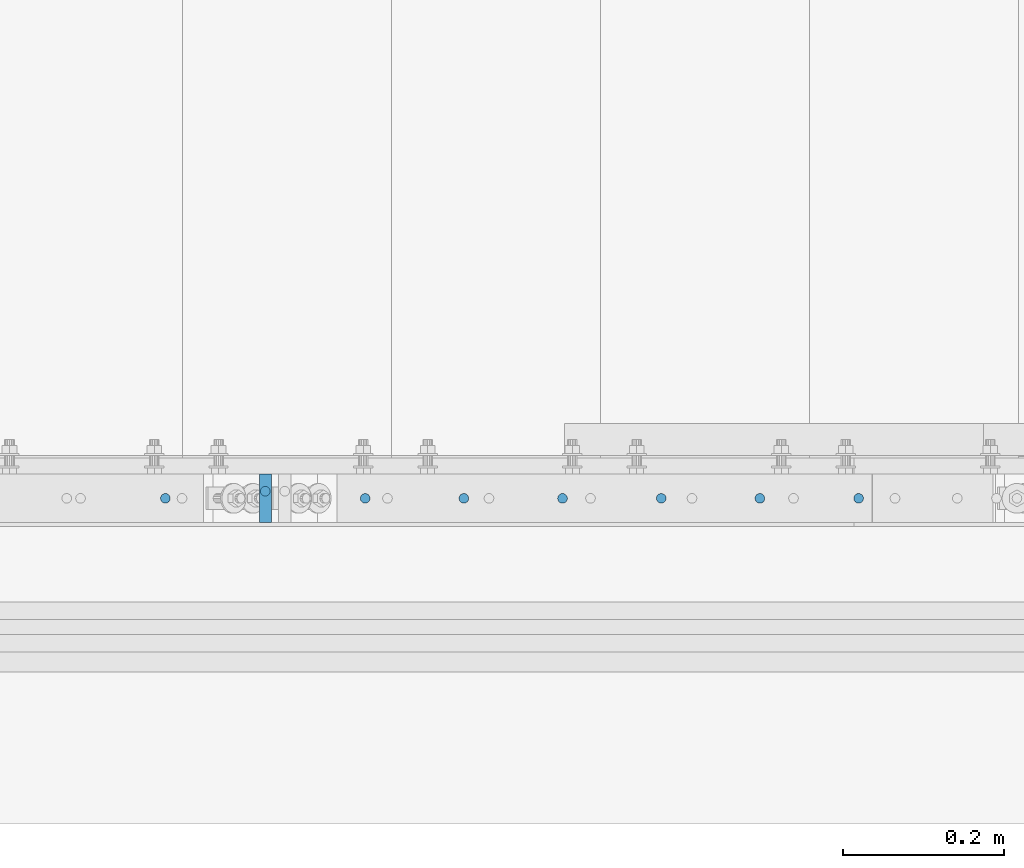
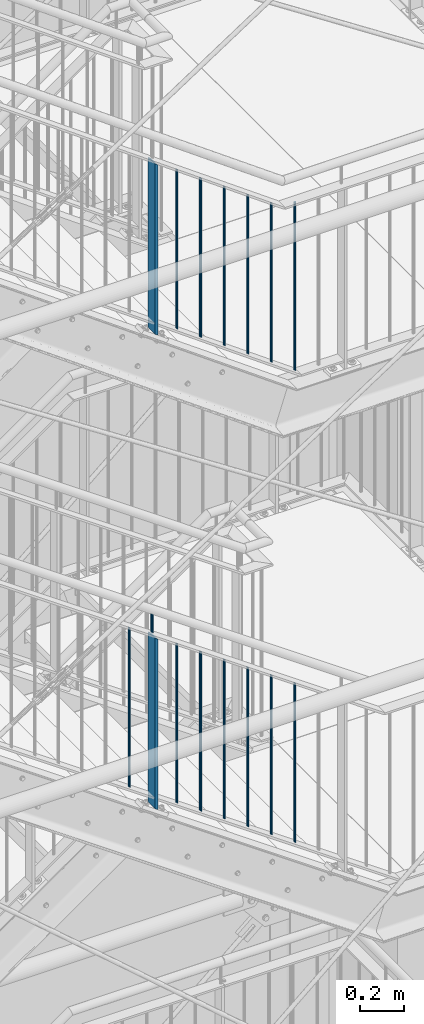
# One storey, part 38 of 825: 16 columns.
"""IFC2X3 building model written with IfcOpenShell, lengths in millimetres."""

from ifc_helpers import new_model, entity, si_unit, converted_unit, frame, origin, origin_with_axes, origin_2d, place, context, project, spatial, rectangle, circle, extrude, clip, halfspace, material, element, save


model = new_model("IFC2X3")

# Units and contexts
model_context = context("Model", 3, precision=1e-09, world=origin_with_axes())
ifc_project = project(units=[si_unit("LENGTHUNIT", "METRE", prefix="MILLI"), si_unit("AREAUNIT", "SQUARE_METRE"), si_unit("VOLUMEUNIT", "CUBIC_METRE"), converted_unit("PLANEANGLEUNIT", "DEGREE", entity("IfcPlaneAngleMeasure", 0.01745329), si_unit("PLANEANGLEUNIT", "RADIAN"), dimensions=[0, 0, 0, 0, 0, 0, 0])], contexts=[model_context])

# Site, building, storey
site_placement = place(None, origin_with_axes())
site = spatial("IfcSite", under=ifc_project, at=site_placement, Name="Cnopf'sche Kinderklinik", CompositionType="ELEMENT")
building_placement = place(site_placement, origin_with_axes())
building = spatial("IfcBuilding", under=site, at=building_placement, Name="Struktur 1", CompositionType="ELEMENT")
storey_placement = place(building_placement, origin_with_axes())
storey = spatial("IfcBuildingStorey", under=building, at=storey_placement, Name="Default Storey", CompositionType="ELEMENT", Elevation=0.0)

# Columns
ifc_material = material(Name="S235JR")
column_1_placement = place(None, frame((6379.791974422, 4526.736971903, 7556.035866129), z_axis=(0.0, 0.0, 1.0), x_axis=(-1.0, 0.0, 0.0)))
element("IfcColumn", 1, at=column_1_placement, inside=storey, material=ifc_material, Name="Railing_Post_Stair#10", ObjectType="Railing_Post_Stair#10", context=model_context, shape_type="Clipping", body=[
    clip(clip(extrude(rectangle(XDim=15.0, YDim=60.0, at=origin_2d()), origin(), (0.0, 0.0, -1.0), 1013.014378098), halfspace(frame((1173.311952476, 4526.736971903, -150.331487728), z_axis=(-0.57512827, 0.0, 0.818063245), x_axis=(0.0, -1.0, 0.0)), True)), halfspace(frame((732.268371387, 4526.736971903, 477.009511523), z_axis=(0.57512827, 0.0, -0.818063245), x_axis=(0.0, 1.0, 0.0)), True)),
])
column_2_placement = place(None, frame((7117.792093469, 4526.736971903, 7009.766681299), z_axis=(0.0, 0.0, 1.0), x_axis=(-1.0, 0.0, 0.0)))
element("IfcColumn", 2, at=column_2_placement, inside=storey, material=ifc_material, Name="Railing_Picket_Stair#63", ObjectType="Railing_Picket_Stair#63", context=model_context, shape_type="Clipping", body=[
    clip(clip(extrude(circle(Radius=6.0, at=origin_2d()), origin(), (0.0, 0.0, -1.0), 897.037988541), halfspace(frame((1470.268490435, 4526.736971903, 1023.278696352), z_axis=(0.57512827, 0.0, -0.818063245), x_axis=(0.0, 1.0, 0.0)), True)), halfspace(frame((1882.555658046, 4526.736971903, 436.840859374), z_axis=(-0.57512827, 0.0, 0.818063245), x_axis=(0.0, -1.0, 0.0)), True)),
])
column_3_placement = place(None, frame((6995.04206966, 4526.736971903, 7096.064420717), z_axis=(0.0, 0.0, 1.0), x_axis=(-1.0, 0.0, 0.0)))
element("IfcColumn", 3, at=column_3_placement, inside=storey, material=ifc_material, Name="Railing_Picket_Stair#64", ObjectType="Railing_Picket_Stair#64", context=model_context, shape_type="Clipping", body=[
    clip(clip(extrude(circle(Radius=6.0, at=origin_2d()), origin(), (0.0, 0.0, -1.0), 897.037988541), halfspace(frame((1347.518466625, 4526.736971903, 936.980956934), z_axis=(0.57512827, 0.0, -0.818063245), x_axis=(0.0, 1.0, 0.0)), True)), halfspace(frame((1759.805634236, 4526.736971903, 350.543119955), z_axis=(-0.57512827, 0.0, 0.818063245), x_axis=(0.0, -1.0, 0.0)), True)),
])
column_4_placement = place(None, frame((6872.29204585, 4526.736971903, 7182.362160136), z_axis=(0.0, 0.0, 1.0), x_axis=(-1.0, 0.0, 0.0)))
element("IfcColumn", 4, at=column_4_placement, inside=storey, material=ifc_material, Name="Railing_Picket_Stair#65", ObjectType="Railing_Picket_Stair#65", context=model_context, shape_type="Clipping", body=[
    clip(clip(extrude(circle(Radius=6.0, at=origin_2d()), origin(), (0.0, 0.0, -1.0), 897.037988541), halfspace(frame((1224.768442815, 4526.736971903, 850.683217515), z_axis=(0.57512827, 0.0, -0.818063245), x_axis=(0.0, 1.0, 0.0)), True)), halfspace(frame((1637.055610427, 4526.736971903, 264.245380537), z_axis=(-0.57512827, 0.0, 0.818063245), x_axis=(0.0, -1.0, 0.0)), True)),
])
column_5_placement = place(None, frame((6749.542022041, 4526.736971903, 7268.659899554), z_axis=(0.0, 0.0, 1.0), x_axis=(-1.0, 0.0, 0.0)))
element("IfcColumn", 5, at=column_5_placement, inside=storey, material=ifc_material, Name="Railing_Picket_Stair#66", ObjectType="Railing_Picket_Stair#66", context=model_context, shape_type="Clipping", body=[
    clip(clip(extrude(circle(Radius=6.0, at=origin_2d()), origin(), (0.0, 0.0, -1.0), 897.037988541), halfspace(frame((1102.018419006, 4526.736971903, 764.385478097), z_axis=(0.57512827, 0.0, -0.818063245), x_axis=(0.0, 1.0, 0.0)), True)), halfspace(frame((1514.305586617, 4526.736971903, 177.947641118), z_axis=(-0.57512827, 0.0, 0.818063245), x_axis=(0.0, -1.0, 0.0)), True)),
])
column_6_placement = place(None, frame((6626.791998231, 4526.736971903, 7354.957638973), z_axis=(0.0, 0.0, 1.0), x_axis=(-1.0, 0.0, 0.0)))
element("IfcColumn", 6, at=column_6_placement, inside=storey, material=ifc_material, Name="Railing_Picket_Stair#67", ObjectType="Railing_Picket_Stair#67", context=model_context, shape_type="Clipping", body=[
    clip(clip(extrude(circle(Radius=6.0, at=origin_2d()), origin(), (0.0, 0.0, -1.0), 897.037988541), halfspace(frame((979.268395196, 4526.736971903, 678.087738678), z_axis=(0.57512827, 0.0, -0.818063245), x_axis=(0.0, 1.0, 0.0)), True)), halfspace(frame((1391.555562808, 4526.736971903, 91.6499017), z_axis=(-0.57512827, 0.0, 0.818063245), x_axis=(0.0, -1.0, 0.0)), True)),
])
column_7_placement = place(None, frame((6504.041974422, 4526.736971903, 7441.255378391), z_axis=(0.0, 0.0, 1.0), x_axis=(-1.0, 0.0, 0.0)))
element("IfcColumn", 7, at=column_7_placement, inside=storey, material=ifc_material, Name="Railing_Picket_Stair#68", ObjectType="Railing_Picket_Stair#68", context=model_context, shape_type="Clipping", body=[
    clip(clip(extrude(circle(Radius=6.0, at=origin_2d()), origin(), (0.0, 0.0, -1.0), 897.037988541), halfspace(frame((856.518371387, 4526.736971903, 591.78999926), z_axis=(0.57512827, 0.0, -0.818063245), x_axis=(0.0, 1.0, 0.0)), True)), halfspace(frame((1268.805538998, 4526.736971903, 5.352162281), z_axis=(-0.57512827, 0.0, 0.818063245), x_axis=(0.0, -1.0, 0.0)), True)),
])
column_8_placement = place(None, frame((6255.541974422, 4526.736971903, 7615.959933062), z_axis=(0.0, 0.0, 1.0), x_axis=(-1.0, 0.0, 0.0)))
element("IfcColumn", 8, at=column_8_placement, inside=storey, material=ifc_material, Name="Railing_Picket_Stair#69", ObjectType="Railing_Picket_Stair#69", context=model_context, shape_type="Clipping", body=[
    clip(clip(extrude(circle(Radius=6.0, at=origin_2d()), origin(), (0.0, 0.0, -1.0), 897.037988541), halfspace(frame((608.018371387, 4526.736971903, 417.085444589), z_axis=(0.57512827, 0.0, -0.818063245), x_axis=(0.0, 1.0, 0.0)), True)), halfspace(frame((1020.305538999, 4526.736971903, -169.352392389), z_axis=(-0.57512827, 0.0, 0.818063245), x_axis=(0.0, -1.0, 0.0)), True)),
])
column_9_placement = place(None, frame((6379.791974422, 4535.536971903, 7640.831649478), z_axis=(0.0, 0.0, 1.0), x_axis=(0.0, 1.0, 0.0)))
element("IfcColumn", 9, at=column_9_placement, inside=storey, material=ifc_material, Name="Bar#10", ObjectType="Bar#10", context=model_context, shape_type="Clipping", body=[
    clip(clip(extrude(circle(Radius=6.0, at=origin_2d()), origin(), (0.0, 0.0, -1.0), 120.744805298), halfspace(frame((-4535.536971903, 679.467958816, 467.317107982), z_axis=(0.0, 0.57512827, -0.818063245), x_axis=(-1.0, 0.0, 0.0)), True)), halfspace(frame((-4535.536971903, 726.515938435, 400.395996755), z_axis=(0.0, -0.57512827, 0.818063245), x_axis=(1.0, 0.0, 0.0)), True)),
])
column_10_placement = place(None, frame((6379.791974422, 4526.736971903, 10165.124796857), z_axis=(0.0, 0.0, 1.0), x_axis=(-1.0, 0.0, 0.0)))
element("IfcColumn", 10, at=column_10_placement, inside=storey, material=ifc_material, Name="Railing_Post_Stair#10", ObjectType="Railing_Post_Stair#10", context=model_context, shape_type="Clipping", body=[
    clip(clip(extrude(rectangle(XDim=15.0, YDim=60.0, at=origin_2d()), origin(), (0.0, 0.0, -1.0), 1013.13824851), halfspace(frame((-619.094090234, 4526.736971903, -485.814281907), z_axis=(0.585945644, 0.0, -0.810350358), x_axis=(0.0, 1.0, 0.0)), True)), halfspace(frame((-174.274417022, 4526.736971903, -1100.990425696), z_axis=(-0.585945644, 0.0, 0.810350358), x_axis=(0.0, -1.0, 0.0)), True)),
])
column_11_placement = place(None, frame((7117.792093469, 4526.736971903, 9644.8), z_axis=(0.0, 0.0, 1.0), x_axis=(-1.0, 0.0, 0.0)))
element("IfcColumn", 11, at=column_11_placement, inside=storey, material=ifc_material, Name="Railing_Picket_Stair#63", ObjectType="Railing_Picket_Stair#63", context=model_context, shape_type="Clipping", body=[
    clip(extrude(circle(Radius=6.0, at=origin_2d()), origin(), (0.0, 0.0, -1.0), 937.053329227), halfspace(frame((534.428419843, 4526.736971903, -540.14811094), z_axis=(-0.585945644, 0.0, 0.810350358), x_axis=(0.0, -1.0, 0.0)), True)),
])
column_12_placement = place(None, frame((6995.04206966, 4526.736971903, 9692.562379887), z_axis=(0.0, 0.0, 1.0), x_axis=(-1.0, 0.0, 0.0)))
element("IfcColumn", 12, at=column_12_placement, inside=storey, material=ifc_material, Name="Railing_Picket_Stair#64", ObjectType="Railing_Picket_Stair#64", context=model_context, shape_type="Clipping", body=[
    clip(clip(extrude(circle(Radius=6.0, at=origin_2d()), origin(), (0.0, 0.0, -1.0), 896.057999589), halfspace(frame((-3.843994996, 4526.736971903, -13.251864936), z_axis=(0.585945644, 0.0, -0.810350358), x_axis=(0.0, 1.0, 0.0)), True)), halfspace(frame((411.678396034, 4526.736971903, -587.910490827), z_axis=(-0.585945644, 0.0, 0.810350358), x_axis=(0.0, -1.0, 0.0)), True)),
])
column_13_placement = place(None, frame((6872.29204585, 4526.736971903, 9781.32008941), z_axis=(0.0, 0.0, 1.0), x_axis=(-1.0, 0.0, 0.0)))
element("IfcColumn", 13, at=column_13_placement, inside=storey, material=ifc_material, Name="Railing_Picket_Stair#65", ObjectType="Railing_Picket_Stair#65", context=model_context, shape_type="Clipping", body=[
    clip(clip(extrude(circle(Radius=6.0, at=origin_2d()), origin(), (0.0, 0.0, -1.0), 896.057999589), halfspace(frame((-126.594018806, 4526.736971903, -102.00957446), z_axis=(0.585945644, 0.0, -0.810350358), x_axis=(0.0, 1.0, 0.0)), True)), halfspace(frame((288.928372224, 4526.736971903, -676.66820035), z_axis=(-0.585945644, 0.0, 0.810350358), x_axis=(0.0, -1.0, 0.0)), True)),
])
column_14_placement = place(None, frame((6749.542022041, 4526.736971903, 9870.077798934), z_axis=(0.0, 0.0, 1.0), x_axis=(-1.0, 0.0, 0.0)))
element("IfcColumn", 14, at=column_14_placement, inside=storey, material=ifc_material, Name="Railing_Picket_Stair#66", ObjectType="Railing_Picket_Stair#66", context=model_context, shape_type="Clipping", body=[
    clip(clip(extrude(circle(Radius=6.0, at=origin_2d()), origin(), (0.0, 0.0, -1.0), 896.057999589), halfspace(frame((-249.344042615, 4526.736971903, -190.767283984), z_axis=(0.585945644, 0.0, -0.810350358), x_axis=(0.0, 1.0, 0.0)), True)), halfspace(frame((166.178348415, 4526.736971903, -765.425909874), z_axis=(-0.585945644, 0.0, 0.810350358), x_axis=(0.0, -1.0, 0.0)), True)),
])
column_15_placement = place(None, frame((6626.791998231, 4526.736971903, 9958.835508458), z_axis=(0.0, 0.0, 1.0), x_axis=(-1.0, 0.0, 0.0)))
element("IfcColumn", 15, at=column_15_placement, inside=storey, material=ifc_material, Name="Railing_Picket_Stair#67", ObjectType="Railing_Picket_Stair#67", context=model_context, shape_type="Clipping", body=[
    clip(clip(extrude(circle(Radius=6.0, at=origin_2d()), origin(), (0.0, 0.0, -1.0), 896.05799959), halfspace(frame((-372.094066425, 4526.736971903, -279.524993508), z_axis=(0.585945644, 0.0, -0.810350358), x_axis=(0.0, 1.0, 0.0)), True)), halfspace(frame((43.428324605, 4526.736971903, -854.183619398), z_axis=(-0.585945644, 0.0, 0.810350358), x_axis=(0.0, -1.0, 0.0)), True)),
])
column_16_placement = place(None, frame((6504.041974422, 4526.736971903, 10047.593217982), z_axis=(0.0, 0.0, 1.0), x_axis=(-1.0, 0.0, 0.0)))
element("IfcColumn", 16, at=column_16_placement, inside=storey, material=ifc_material, Name="Railing_Picket_Stair#68", ObjectType="Railing_Picket_Stair#68", context=model_context, shape_type="Clipping", body=[
    clip(clip(extrude(circle(Radius=6.0, at=origin_2d()), origin(), (0.0, 0.0, -1.0), 896.05799959), halfspace(frame((-494.844090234, 4526.736971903, -368.282703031), z_axis=(0.585945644, 0.0, -0.810350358), x_axis=(0.0, 1.0, 0.0)), True)), halfspace(frame((-79.321699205, 4526.736971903, -942.941328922), z_axis=(-0.585945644, 0.0, 0.810350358), x_axis=(0.0, -1.0, 0.0)), True)),
])

save(model, "model.ifc")
